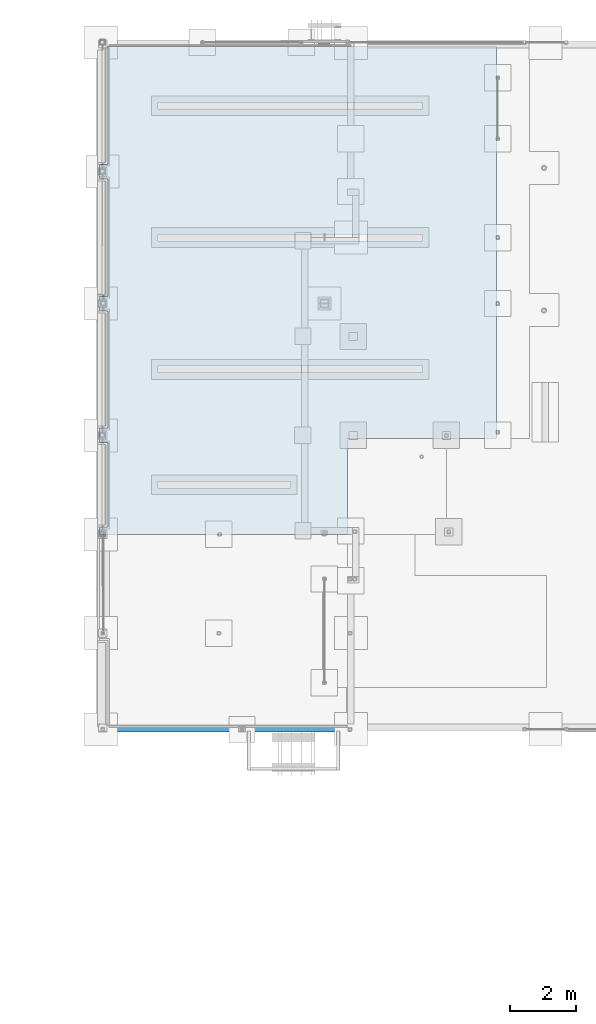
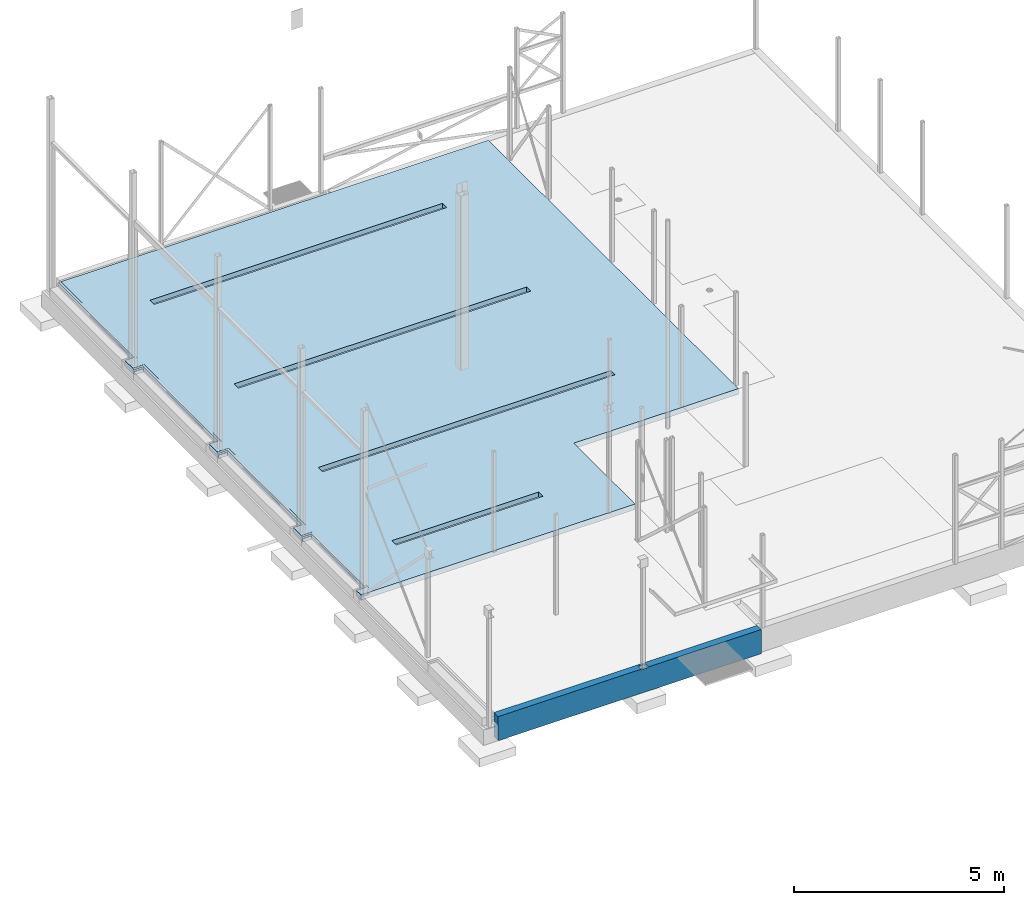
# One storey, part 12 of 18: 1 slab, 1 wall.
"""IFC2X3 building model written with IfcOpenShell, lengths in millimetres."""

import ifcopenshell
import ifcopenshell.guid

model = None  # the IFC model being written
_history = None  # IfcOwnerHistory: only IFC2X3 demands one
_inside = {}  # id of a spatial element -> (the spatial element, [elements in it])
_under = {}  # id of a project, library or spatial element -> (it, [spatial elements below it])
_declared = {}  # id of a project -> (the project, [libraries it declares])
_typed = {}  # id of a type object -> (the type object, [elements of that type])
_made_of = {}  # id of a material, layer set ... -> (it, [elements and type objects made of it])


def new_model(schema):
    """Start an empty IFC model of exactly this schema.

    Asked for "IFC4X3", IfcOpenShell would pick the latest addendum, in which some entities
    have other attributes; the version numbers below select the first issue.
    IFC2X3 requires an IfcOwnerHistory on every rooted entity: one is made here for all.
    """
    global model, _history
    if schema == "IFC4X3":
        model = ifcopenshell.file(schema_version=(4, 3, 0, 0))
    else:
        model = ifcopenshell.file(schema=schema)
    _inside.clear()
    _under.clear()
    _declared.clear()
    _typed.clear()
    _made_of.clear()
    _history = None
    if model.schema == "IFC2X3":
        org = make("IfcOrganization", Name="unknown")
        user = make(
            "IfcPersonAndOrganization",
            ThePerson=make("IfcPerson", FamilyName="unknown"),
            TheOrganization=org,
        )
        app = make(
            "IfcApplication",
            ApplicationDeveloper=org,
            Version="unknown",
            ApplicationFullName="unknown",
            ApplicationIdentifier="unknown",
        )
        _history = make(
            "IfcOwnerHistory",
            OwningUser=user,
            OwningApplication=app,
            ChangeAction="ADDED",
            CreationDate=0,
        )
    return model


def make(cls, **values):
    """One entity of the class cls with the attributes given. An attribute that is None is left unset."""
    return model.create_entity(
        cls, **{name: value for name, value in values.items() if value is not None}
    )


def entity(cls, *values):
    """Any entity or typed value of the class cls, its attributes in the order of the schema. None: left unset."""
    e = model.create_entity(cls)
    for i, value in enumerate(values):
        if value is not None:
            e[i] = value
    return e


def rooted(cls, **values):
    """An entity with a GlobalId (a new one), such as an element, a storey or a relation."""
    return make(cls, GlobalId=ifcopenshell.guid.new(), OwnerHistory=_history, **values)


def si_unit(unit_type, name, prefix=None):
    """IfcSIUnit, for example si_unit("LENGTHUNIT", "METRE", prefix="MILLI")."""
    return make("IfcSIUnit", UnitType=unit_type, Prefix=prefix, Name=name)


def converted_unit(unit_type, name, factor, base, dimensions=None, offset=None):
    """IfcConversionBasedUnit, such as the inch: factor (a typed value) times the base unit."""
    return make(
        "IfcConversionBasedUnit"
        if offset is None
        else "IfcConversionBasedUnitWithOffset",
        ConversionOffset=offset,
        Dimensions=None
        if dimensions is None
        else entity("IfcDimensionalExponents", *dimensions),
        UnitType=unit_type,
        Name=name,
        ConversionFactor=make(
            "IfcMeasureWithUnit", ValueComponent=factor, UnitComponent=base
        ),
    )


def derived_unit(unit_type, elements):
    """IfcDerivedUnit: a product of units, each with its exponent."""
    return make(
        "IfcDerivedUnit",
        Elements=[
            make("IfcDerivedUnitElement", Unit=unit, Exponent=power)
            for unit, power in elements
        ],
        UnitType=unit_type,
    )


def assignment(units):
    """IfcUnitAssignment: the units of a project."""
    return None if units is None else make("IfcUnitAssignment", Units=units)


def point(xyz):
    """IfcCartesianPoint."""
    return None if xyz is None else make("IfcCartesianPoint", Coordinates=xyz)


def direction(xyz):
    """IfcDirection."""
    return None if xyz is None else make("IfcDirection", DirectionRatios=xyz)


def frame(location, z_axis=None, x_axis=None):
    """IfcAxis2Placement3D, a coordinate frame: its origin and axes. An axis left out is left unset."""
    return make(
        "IfcAxis2Placement3D",
        Location=point(location),
        Axis=direction(z_axis),
        RefDirection=direction(x_axis),
    )


def origin():
    """The frame at (0, 0, 0) with its axes left unset."""
    return frame((0.0, 0.0, 0.0))


def place(relative_to, where):
    """IfcLocalPlacement: puts the frame where relative to a parent placement (None: the world)."""
    return make(
        "IfcLocalPlacement", PlacementRelTo=relative_to, RelativePlacement=where
    )


def context(
    kind, dimensions, precision=None, world=None, true_north=None, identifier=None
):
    """IfcGeometricRepresentationContext, for example the 3D "Model" context."""
    return make(
        "IfcGeometricRepresentationContext",
        ContextIdentifier=identifier,
        ContextType=kind,
        CoordinateSpaceDimension=dimensions,
        Precision=precision,
        WorldCoordinateSystem=world,
        TrueNorth=true_north,
    )


def subcontext(parent, identifier, kind, view, scale=None):
    """IfcGeometricRepresentationSubContext, for example "Body" below "Model"."""
    return make(
        "IfcGeometricRepresentationSubContext",
        ContextIdentifier=identifier,
        ContextType=kind,
        ParentContext=parent,
        TargetScale=scale,
        TargetView=view,
    )


def project(units=None, contexts=None):
    """IfcProject with its units and contexts."""
    return rooted(
        "IfcProject",
        Name="project",
        RepresentationContexts=contexts,
        UnitsInContext=assignment(units),
    )


def spatial(cls, under=None, at=None, **own):
    """A site, building, storey or space (cls), placed at a placement, below another one or the project."""
    s = rooted(cls, ObjectPlacement=at, **own)
    if under is not None:
        _under.setdefault(under.id(), (under, []))[1].append(s)
    return s


def faces_of(points, faces, orient=None, outer=None):
    """IfcFace entities. A face is a list of loops; a loop is a list of indices into points, from 0.

    orient and outer hold one flag for each loop. By default every Orientation is true, the
    first loop of a face is its IfcFaceOuterBound and the others are IfcFaceBound.
    """
    made = []
    for i, loops in enumerate(faces):
        bounds = []
        for j, loop in enumerate(loops):
            is_outer = j == 0 if outer is None else outer[i][j]
            bounds.append(
                make(
                    "IfcFaceOuterBound" if is_outer else "IfcFaceBound",
                    Bound=make("IfcPolyLoop", Polygon=[points[k] for k in loop]),
                    Orientation=True if orient is None else orient[i][j],
                )
            )
        made.append(make("IfcFace", Bounds=bounds))
    return made


def faceted_brep(points, faces, orient=None, outer=None, voids=None):
    """IfcFacetedBrep: a solid bounded by flat faces; with voids (closed shells), ...WithVoids."""
    shared = [point(p) for p in points]
    hull = make("IfcClosedShell", CfsFaces=faces_of(shared, faces, orient, outer))
    if voids is None:
        return make("IfcFacetedBrep", Outer=hull)
    return make(
        "IfcFacetedBrepWithVoids",
        Outer=hull,
        Voids=[
            make(cls, CfsFaces=faces_of(shared, fs, o, b)) for cls, fs, o, b in voids
        ],
    )


def shape(context_of_items, identifier, shape_type, items):
    """IfcShapeRepresentation: the items that make up one representation, for example the "Body"."""
    return make(
        "IfcShapeRepresentation",
        ContextOfItems=context_of_items,
        RepresentationIdentifier=identifier,
        RepresentationType=shape_type,
        Items=items,
    )


def material(Name=None, Category=None):
    """IfcMaterial."""
    return make("IfcMaterial", Name=Name, Category=Category)


def layer(
    of_material, thickness, ventilated=None, Name=None, Category=None, Priority=None
):
    """IfcMaterialLayer: one layer of a wall or slab, of a material (None: an air gap)."""
    return make(
        "IfcMaterialLayer",
        Material=of_material,
        LayerThickness=thickness,
        IsVentilated=ventilated,
        Name=Name,
        Category=Category,
        Priority=Priority,
    )


def layer_set(layers, Name=None):
    """IfcMaterialLayerSet."""
    return make("IfcMaterialLayerSet", MaterialLayers=layers, LayerSetName=Name)


def made_of(thing, what):
    """Note that an element or type object is made of a material, layer set ...; save() writes the relation."""
    if what is not None:
        _made_of.setdefault(what.id(), (what, []))[1].append(thing)
    return thing


def type_object(cls, material=None, **own):
    """A type object (cls), such as IfcWallType, which elements share."""
    return made_of(rooted(cls, **own), material)


def element(
    cls,
    number,
    at=None,
    inside=None,
    cuts=None,
    type_object=None,
    material=None,
    context=None,
    identifier="Body",
    shape_type=None,
    held_by="IfcProductDefinitionShape",
    body=None,
    shapes=None,
    **own,
):
    """One element of the class cls, such as IfcWall. Its Tag is "e" and its number.

    at: its placement. inside: the storey or other place that contains it. cuts: it is an
    opening in that element (IfcRelVoidsElement). A single representation is given by context,
    identifier, shape_type and body (its items); several are given by shapes. held_by: the class
    of the entity that holds the representations. save() writes the other relations.
    """
    e = rooted(cls, Tag="e%d" % number, ObjectPlacement=at, **own)
    if body is not None:
        shapes = [shape(context, identifier, shape_type, body)]
    if shapes is not None:
        e.Representation = make(held_by, Representations=shapes)
    if inside is not None:
        _inside.setdefault(inside.id(), (inside, []))[1].append(e)
    if cuts is not None:
        rooted(
            "IfcRelVoidsElement", RelatingBuildingElement=cuts, RelatedOpeningElement=e
        )
    if type_object is not None:
        _typed.setdefault(type_object.id(), (type_object, []))[1].append(e)
    return made_of(e, material)


def aggregate(whole, parts):
    """IfcRelAggregates: a whole, such as a stair, and the parts it consists of."""
    return rooted("IfcRelAggregates", RelatingObject=whole, RelatedObjects=parts)


def save(model, path):
    """Write the relations noted so far, then the file.

    IfcRelAggregates (storeys below a building ...), IfcRelContainedInSpatialStructure (elements
    in a storey), IfcRelDefinesByType, IfcRelAssociatesMaterial and IfcRelDeclares: one each for
    every whole, place, type object, material and project.
    """
    for whole, parts in _under.values():
        aggregate(whole, parts)
    for where, things in _inside.values():
        rooted(
            "IfcRelContainedInSpatialStructure",
            RelatedElements=things,
            RelatingStructure=where,
        )
    for kind, things in _typed.values():
        rooted("IfcRelDefinesByType", RelatedObjects=things, RelatingType=kind)
    for what, things in _made_of.values():
        rooted("IfcRelAssociatesMaterial", RelatedObjects=things, RelatingMaterial=what)
    for by, libraries in _declared.values():
        rooted("IfcRelDeclares", RelatingContext=by, RelatedDefinitions=libraries)
    model.write(path)


model = new_model("IFC2X3")

# Units and contexts
model_context = context("Model", 3, precision=0.01, world=origin(), true_north=direction((6.12303176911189e-17, 1.0)))
body_context = subcontext(model_context, "Body", "Model", "MODEL_VIEW")
ifc_project = project(units=[si_unit("LENGTHUNIT", "METRE", prefix="MILLI"), si_unit("AREAUNIT", "SQUARE_METRE"), si_unit("VOLUMEUNIT", "CUBIC_METRE"), converted_unit("PLANEANGLEUNIT", "DEGREE", entity("IfcRatioMeasure", 0.0174532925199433), si_unit("PLANEANGLEUNIT", "RADIAN"), dimensions=[0, 0, 0, 0, 0, 0, 0]), si_unit("MASSUNIT", "GRAM", prefix="KILO"), derived_unit("MASSDENSITYUNIT", [(si_unit("MASSUNIT", "GRAM", prefix="KILO"), 1), (si_unit("LENGTHUNIT", "METRE"), -3)]), si_unit("TIMEUNIT", "SECOND"), si_unit("FREQUENCYUNIT", "HERTZ"), si_unit("THERMODYNAMICTEMPERATUREUNIT", "DEGREE_CELSIUS"), derived_unit("THERMALTRANSMITTANCEUNIT", [(si_unit("MASSUNIT", "GRAM", prefix="KILO"), 1), (si_unit("THERMODYNAMICTEMPERATUREUNIT", "KELVIN"), -1), (si_unit("TIMEUNIT", "SECOND"), -3)]), derived_unit("VOLUMETRICFLOWRATEUNIT", [(si_unit("LENGTHUNIT", "METRE"), 3), (si_unit("TIMEUNIT", "SECOND"), -1)]), si_unit("ELECTRICCURRENTUNIT", "AMPERE"), si_unit("ELECTRICVOLTAGEUNIT", "VOLT"), si_unit("POWERUNIT", "WATT"), si_unit("FORCEUNIT", "NEWTON", prefix="KILO"), si_unit("ILLUMINANCEUNIT", "LUX"), si_unit("LUMINOUSFLUXUNIT", "LUMEN"), si_unit("LUMINOUSINTENSITYUNIT", "CANDELA"), derived_unit("USERDEFINED", [(si_unit("MASSUNIT", "GRAM", prefix="KILO"), -1), (si_unit("LENGTHUNIT", "METRE"), -2), (si_unit("TIMEUNIT", "SECOND"), 3), (si_unit("LUMINOUSFLUXUNIT", "LUMEN"), 1)]), derived_unit("LINEARVELOCITYUNIT", [(si_unit("LENGTHUNIT", "METRE"), 1), (si_unit("TIMEUNIT", "SECOND"), -1)]), si_unit("PRESSUREUNIT", "PASCAL"), derived_unit("USERDEFINED", [(si_unit("LENGTHUNIT", "METRE"), -2), (si_unit("MASSUNIT", "GRAM", prefix="KILO"), 1), (si_unit("TIMEUNIT", "SECOND"), -2)])], contexts=[model_context])

# Site, building, storey
site_placement = place(None, frame((0.0, 0.0, 101000.0)))
site = spatial("IfcSite", under=ifc_project, at=site_placement, Name="Default", CompositionType="ELEMENT")
building_placement = place(site_placement, origin())
building = spatial("IfcBuilding", under=site, at=building_placement, CompositionType="ELEMENT")
storey_placement = place(building_placement, origin())
storey = spatial("IfcBuildingStorey", under=building, at=storey_placement, Name="01", CompositionType="ELEMENT", Elevation=8.9295595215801e-10)

# Slab
ifc_material_1 = material(Name="Betong Plasstøpt - B30")
slab_placement = place(storey_placement, origin())
element("IfcSlab", 1, at=slab_placement, inside=storey, material=ifc_material_1, Name="Floor:PÅSTØP 160 VARIABEL", ObjectType="Floor:PÅSTØP 160 VARIABEL", PredefinedType="FLOOR", context=body_context, shape_type="Brep", body=[
    faceted_brep([(13461.3188765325, 42517.9507529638, -160.0), (5436.31887653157, 42517.9507529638, -160.0), (5436.31887653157, 42317.9507529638, -160.0), (13461.3188765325, 42317.9507529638, -160.0), (5436.31887653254, 38517.9507529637, -160.0), (5436.31887653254, 38317.9507529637, -160.0), (13461.3188765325, 38317.9507529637, -160.0), (13461.3188765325, 38517.9507529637, -160.0), (13461.3188765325, 34517.9507529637, -160.0), (5436.31887653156, 34517.9507529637, -160.0), (5436.31887653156, 34317.9507529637, -160.0), (13461.3188765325, 34317.9507529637, -160.0), (9461.31887653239, 31017.9507529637, -160.0), (5436.31887653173, 31017.9507529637, -160.0), (5436.31887653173, 30817.9507529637, -160.0), (9461.31887653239, 30817.9507529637, -160.0), (3911.26449698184, 44217.9507529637, -160.0), (15701.3188765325, 44217.9507529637, -160.0), (15701.3188765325, 32329.1471426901, -160.0), (11186.2644969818, 32329.1471426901, -160.0), (11186.2644969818, 29417.9507529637, -160.0), (3660.98233689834, 29417.9507529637, -160.0), (3660.98233689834, 29642.9507529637, -160.0), (3911.26449698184, 29642.9507529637, -160.0), (3911.26449698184, 32192.9507529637, -160.0), (3660.98233689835, 32192.9507529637, -160.0), (3660.98233689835, 32642.9507529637, -160.0), (3911.26449698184, 32642.9507529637, -160.0), (3911.26449698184, 36192.9507529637, -160.0), (3660.98233689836, 36192.9507529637, -160.0), (3660.98233689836, 36642.9507529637, -160.0), (3911.26449698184, 36642.9507529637, -160.0), (3911.26449698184, 40192.9507529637, -160.0), (3660.98233689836, 40192.9507529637, -160.0), (3660.98233689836, 40642.9507529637, -160.0), (3911.26449698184, 40642.9507529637, -160.0), (3911.26449698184, 44217.9507529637, -60.0), (3916.26449698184, 44217.9507529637, -60.0), (3916.26449698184, 44217.9507529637, -5.0), (3971.26449698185, 44217.9507529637, -5.0), (3971.26449698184, 44217.9507529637, 0.0), (15701.3188765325, 44217.9507529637, 0.0), (3911.26449698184, 40642.9507529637, -60.0), (3660.98233689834, 29642.9507529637, -60.0), (3911.26449698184, 29642.9507529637, -60.0), (3911.26449698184, 32192.9507529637, -60.0), (3660.98233689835, 32192.9507529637, -60.0), (3660.98233689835, 32197.9507529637, -60.0), (3660.98233689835, 32197.9507529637, -5.0), (3660.98233689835, 32252.9507529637, -5.0), (3660.98233689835, 32252.9507529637, 0.0), (3660.98233689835, 32582.9507529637, 0.0), (3660.98233689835, 32582.9507529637, -5.0), (3660.98233689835, 32637.9507529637, -5.0), (3660.98233689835, 32637.9507529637, -60.0), (3660.98233689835, 32642.9507529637, -60.0), (3911.26449698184, 32642.9507529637, -60.0), (3911.26449698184, 36192.9507529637, -60.0), (3660.98233689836, 36192.9507529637, -60.0), (3660.98233689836, 36197.9507529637, -60.0), (3660.98233689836, 36197.9507529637, -5.0), (3660.98233689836, 36252.9507529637, -5.0), (3660.98233689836, 36252.9507529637, 0.0), (3660.98233689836, 36582.9507529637, 0.0), (3660.98233689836, 36582.9507529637, -5.0), (3660.98233689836, 36637.9507529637, -5.0), (3660.98233689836, 36637.9507529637, -60.0), (3660.98233689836, 36642.9507529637, -60.0), (3911.26449698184, 36642.9507529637, -60.0), (3911.26449698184, 40192.9507529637, -60.0), (3660.98233689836, 40192.9507529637, -60.0), (3660.98233689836, 40197.9507529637, -60.0), (3660.98233689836, 40197.9507529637, -5.0), (3660.98233689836, 40252.9507529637, -5.0), (3660.98233689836, 40252.9507529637, 0.0), (3660.98233689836, 40582.9507529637, 0.0), (3660.98233689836, 40582.9507529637, -5.0), (3660.98233689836, 40637.9507529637, -5.0), (3660.98233689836, 40637.9507529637, -60.0), (3660.98233689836, 40642.9507529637, -60.0), (15701.3188765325, 32329.1471426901, 0.0), (11186.2644969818, 32329.1471426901, 0.0), (11186.2644969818, 29417.9507529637, 0.0), (3660.98233689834, 29417.9507529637, 0.0), (3660.98233689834, 29417.9507529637, -15.0), (3660.98233689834, 29582.9507529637, 0.0), (3660.98233689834, 29582.9507529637, -5.0), (3660.98233689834, 29637.9507529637, -5.0), (3660.98233689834, 29637.9507529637, -60.0), (3911.26449698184, 40252.9507529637, 0.0), (3911.26449698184, 40582.9507529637, 0.0), (13461.3188765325, 42517.9507529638, -20.0), (5436.31887653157, 42517.9507529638, -20.0), (5436.31887653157, 42317.9507529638, -20.0), (13461.3188765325, 42317.9507529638, -20.0), (5436.31887653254, 38517.9507529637, -20.0), (5436.31887653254, 38317.9507529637, -20.0), (13461.3188765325, 38317.9507529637, -20.0), (13461.3188765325, 38517.9507529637, -20.0), (13461.3188765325, 34517.9507529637, -20.0), (5436.31887653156, 34517.9507529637, -20.0), (5436.31887653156, 34317.9507529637, -20.0), (13461.3188765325, 34317.9507529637, -20.0), (9461.31887653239, 31017.9507529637, -20.0), (5436.31887653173, 31017.9507529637, -20.0), (5436.31887653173, 30817.9507529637, -20.0), (9461.31887653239, 30817.9507529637, -20.0), (3911.26449698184, 36582.9507529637, 0.0), (3911.26449698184, 36252.9507529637, 0.0), (3971.26449698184, 44151.0678920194, -0.786857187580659), (3971.26449698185, 40582.9507529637, -0.786857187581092), (3971.26449698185, 40252.9507529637, -0.786857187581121), (3971.26449698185, 36582.9507529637, -0.786857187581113), (3971.26449698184, 36252.9507529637, -0.786857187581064), (3971.26449698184, 32582.9507529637, -0.78685718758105), (3911.26449698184, 32582.9507529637, 0.0), (3911.26449698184, 32252.9507529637, 0.0), (3971.26449698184, 32252.9507529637, -0.786857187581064), (3971.26449698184, 29689.1786127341, -0.78685718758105), (3971.26449698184, 29655.6533312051, -0.216214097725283), (3971.26449698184, 29641.0950828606, 0.0), (3971.26449698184, 29582.9507529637, 0.0), (3971.26449698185, 40582.9507529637, -5.0), (3916.26449698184, 40197.9507529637, -60.0), (3916.26449698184, 36637.9507529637, -60.0), (3916.26449698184, 36637.9507529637, -5.0), (3916.26449698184, 40197.9507529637, -5.0), (3971.26449698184, 36582.9507529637, -5.0), (3971.26449698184, 40252.9507529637, -5.0), (3916.26449698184, 40637.9507529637, -60.0), (3916.26449698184, 40637.9507529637, -5.0), (3916.26449698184, 36197.9507529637, -60.0), (3916.26449698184, 36197.9507529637, -5.0), (3971.26449698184, 36252.9507529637, -5.0), (3971.26449698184, 32582.9507529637, -5.0), (3916.26449698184, 32637.9507529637, -5.0), (3916.26449698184, 32637.9507529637, -60.0), (3916.26449698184, 32197.9507529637, -60.0), (3916.26449698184, 29637.9507529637, -60.0), (3916.26449698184, 29637.9507529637, -5.0), (3916.26449698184, 32197.9507529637, -5.0), (3971.26449698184, 29582.9507529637, -5.0), (3971.26449698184, 32252.9507529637, -5.0)], [[[0, 1, 2, 3], [4, 5, 6, 7], [8, 9, 10, 11], [12, 13, 14, 15], [16, 17, 18, 19, 20, 21, 22, 23, 24, 25, 26, 27, 28, 29, 30, 31, 32, 33, 34, 35]], [[17, 16, 36, 37, 38, 39, 40, 41]], [[16, 35, 42, 36]], [[23, 22, 43, 44]], [[24, 23, 44, 45]], [[25, 24, 45, 46]], [[26, 25, 46, 47, 48, 49, 50, 51, 52, 53, 54, 55]], [[27, 26, 55, 56]], [[28, 27, 56, 57]], [[29, 28, 57, 58]], [[30, 29, 58, 59, 60, 61, 62, 63, 64, 65, 66, 67]], [[31, 30, 67, 68]], [[32, 31, 68, 69]], [[33, 32, 69, 70]], [[34, 33, 70, 71, 72, 73, 74, 75, 76, 77, 78, 79]], [[35, 34, 79, 42]], [[18, 17, 41, 80]], [[19, 18, 80, 81]], [[20, 19, 81, 82]], [[21, 20, 82, 83, 84]], [[22, 21, 84, 83, 85, 86, 87, 88, 43]], [[74, 89, 90, 75]], [[1, 0, 91, 92]], [[2, 1, 92, 93]], [[3, 2, 93, 94]], [[0, 3, 94, 91]], [[5, 4, 95, 96]], [[6, 5, 96, 97]], [[7, 6, 97, 98]], [[4, 7, 98, 95]], [[9, 8, 99, 100]], [[10, 9, 100, 101]], [[11, 10, 101, 102]], [[8, 11, 102, 99]], [[13, 12, 103, 104]], [[14, 13, 104, 105]], [[15, 14, 105, 106]], [[12, 15, 106, 103]], [[94, 93, 95, 98]], [[97, 96, 100, 99]], [[107, 63, 62, 108]], [[80, 41, 91, 94, 98, 97, 99, 102]], [[92, 91, 41, 40, 109]], [[105, 104, 101, 100, 96, 95, 93, 92, 109, 110, 90, 89, 111, 112, 107, 108, 113, 114, 115, 116, 117, 118]], [[104, 103, 101]], [[115, 51, 50, 116]], [[101, 103, 81]], [[81, 80, 102, 101]], [[106, 105, 118, 119]], [[83, 82, 120, 121, 85]], [[82, 81, 103, 106]], [[82, 106, 119, 120]], [[39, 122, 110, 109, 40]], [[122, 76, 75, 90, 110]], [[123, 69, 68, 124]], [[123, 124, 125, 126]], [[126, 125, 127, 128]], [[128, 127, 112, 111]], [[127, 64, 63, 107, 112]], [[127, 125, 65, 64]], [[125, 124, 66, 65]], [[124, 68, 67, 66]], [[73, 128, 111, 89, 74]], [[126, 128, 73, 72]], [[123, 126, 72, 71]], [[69, 123, 71, 70]], [[129, 37, 36, 42]], [[37, 129, 130, 38]], [[38, 130, 122, 39]], [[122, 130, 77, 76]], [[130, 129, 78, 77]], [[129, 42, 79, 78]], [[131, 59, 58, 57]], [[59, 131, 132, 60]], [[60, 132, 133, 61]], [[61, 133, 113, 108, 62]], [[133, 134, 114, 113]], [[133, 132, 135, 134]], [[132, 131, 136, 135]], [[131, 57, 56, 136]], [[134, 52, 51, 115, 114]], [[134, 135, 53, 52]], [[135, 136, 54, 53]], [[136, 56, 55, 54]], [[137, 45, 44, 138]], [[137, 138, 139, 140]], [[140, 139, 141, 142]], [[142, 141, 121, 120, 119, 118, 117]], [[121, 141, 86, 85]], [[141, 139, 87, 86]], [[139, 138, 88, 87]], [[138, 44, 43, 88]], [[49, 142, 117, 116, 50]], [[140, 142, 49, 48]], [[137, 140, 48, 47]], [[45, 137, 47, 46]]], outer=[[False, False, False, False, True], [True], [True], [True], [True], [True], [True], [True], [True], [True], [True], [True], [True], [True], [True], [True], [True], [True], [True], [True], [True], [True], [True], [True], [True], [True], [True], [True], [True], [True], [True], [True], [True], [True], [True], [True], [True], [True], [True], [True], [True], [True], [True], [True], [True], [True], [True], [True], [True], [True], [True], [True], [True], [True], [True], [True], [True], [True], [True], [True], [True], [True], [True], [True], [True], [True], [True], [True], [True], [True], [True], [True], [True], [True], [True], [True], [True], [True], [True], [True], [True], [True], [True], [True], [True], [True], [True], [True], [True], [True], [True], [True], [True], [True], [True], [True]]),
])

# Wall
ifc_material_2 = material(Name="Betong Plasstøpt - B35")
ifc_layer = layer(ifc_material_2, 200.0)
ifc_layer_set = layer_set([ifc_layer], Name="Basic Wall:OPPKANT B=200")
wall_type = type_object("IfcWallType", Name="Basic Wall:OPPKANT B=200", PredefinedType="STANDARD", material=ifc_layer_set)
wall_placement = place(storey_placement, frame((11186.2644969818, 23517.9507529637, -700.0), z_axis=(0.0, 0.0, 1.0), x_axis=(-1.0, 0.0, 0.0)))
element("IfcWall", 2, at=wall_placement, inside=storey, type_object=wall_type, Name="Basic Wall:OPPKANT B=200", ObjectType="Basic Wall:OPPKANT B=200", context=body_context, shape_type="Brep", body=[
    faceted_brep([(0.0, -100.0, 700.0), (0.0, -50.0, 700.0), (0.0, -50.0, 450.0), (0.0, -100.0, 450.0), (7225.0, -100.0, 700.0), (7225.0, -100.0, 450.0), (7225.0, -50.0, 450.0), (7225.0, -50.0, 700.0), (3300.0, -50.0, 700.0), (3100.0, -50.0, 700.0)], [[[0, 1, 2, 3]], [[4, 5, 6, 7]], [[1, 0, 4, 7, 8, 9]], [[2, 1, 9, 8, 7, 6]], [[3, 2, 6, 5]], [[0, 3, 5, 4]]]),
    faceted_brep([(0.0, -50.0, 700.0), (3100.0, -50.0, 700.0), (3100.0, 100.0, 700.0), (0.0, 100.0, 700.0), (3130.0, -28.0, 700.0), (3132.0705523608, -27.7274066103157, 700.0), (3134.0, -26.9282032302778, 700.0), (3135.65685424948, -25.6568542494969, 700.0), (3136.92820323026, -24.0, 700.0), (3137.7274066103, -22.0705523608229, 700.0), (3138.0, -20.0, 700.0), (3137.7274066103, -17.9294476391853, 700.0), (3136.92820323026, -16.0, 700.0), (3135.65685424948, -14.3431457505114, 700.0), (3134.0, -13.0717967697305, 700.0), (3132.0705523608, -12.2725933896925, 700.0), (3130.0, -12.0, 700.0), (3127.92944763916, -12.2725933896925, 700.0), (3126.0, -13.0717967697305, 700.0), (3124.34314575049, -14.3431457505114, 700.0), (3123.07179676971, -16.0, 700.0), (3122.27259338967, -17.9294476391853, 700.0), (3122.0, -20.0, 700.0), (3122.27259338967, -22.0705523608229, 700.0), (3123.07179676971, -24.0, 700.0), (3124.34314575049, -25.6568542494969, 700.0), (3126.0, -26.9282032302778, 700.0), (3127.92944763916, -27.7274066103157, 700.0), (3130.0, 62.0, 700.0), (3132.0705523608, 62.2725933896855, 700.0), (3134.0, 63.0717967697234, 700.0), (3135.65685424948, 64.3431457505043, 700.0), (3136.92820323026, 66.0, 700.0), (3137.7274066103, 67.9294476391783, 700.0), (3138.0, 70.0, 700.0), (3137.7274066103, 72.0705523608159, 700.0), (3136.92820323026, 74.0, 700.0), (3135.65685424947, 75.6568542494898, 700.0), (3134.0, 76.9282032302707, 700.0), (3132.0705523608, 77.7274066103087, 700.0), (3130.0, 78.0, 700.0), (3127.92944763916, 77.7274066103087, 700.0), (3126.0, 76.9282032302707, 700.0), (3124.34314575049, 75.6568542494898, 700.0), (3123.07179676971, 74.0, 700.0), (3122.27259338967, 72.0705523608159, 700.0), (3122.0, 70.0, 700.0), (3122.27259338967, 67.9294476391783, 700.0), (3123.07179676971, 66.0, 700.0), (3124.34314575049, 64.3431457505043, 700.0), (3126.0, 63.0717967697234, 700.0), (3127.92944763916, 62.2725933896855, 700.0), (3300.0, -50.0, 700.0), (7225.0, -50.0, 700.0), (7225.0, 100.0, 700.0), (3300.0, 100.0, 700.0), (3270.0, 62.0, 700.0), (3272.0705523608, 62.2725933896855, 700.0), (3274.0, 63.0717967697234, 700.0), (3275.65685424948, 64.3431457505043, 700.0), (3276.92820323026, 66.0, 700.0), (3277.7274066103, 67.9294476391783, 700.0), (3278.0, 70.0, 700.0), (3277.7274066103, 72.0705523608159, 700.0), (3276.92820323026, 74.0, 700.0), (3275.65685424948, 75.6568542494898, 700.0), (3274.0, 76.9282032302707, 700.0), (3272.0705523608, 77.7274066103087, 700.0), (3270.0, 78.0, 700.0), (3267.92944763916, 77.7274066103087, 700.0), (3266.0, 76.9282032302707, 700.0), (3264.34314575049, 75.6568542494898, 700.0), (3263.07179676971, 74.0, 700.0), (3262.27259338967, 72.0705523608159, 700.0), (3262.0, 70.0, 700.0), (3262.27259338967, 67.9294476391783, 700.0), (3263.07179676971, 66.0, 700.0), (3264.34314575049, 64.3431457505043, 700.0), (3266.0, 63.0717967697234, 700.0), (3267.92944763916, 62.2725933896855, 700.0), (3270.0, -28.0, 700.0), (3272.0705523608, -27.7274066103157, 700.0), (3274.0, -26.9282032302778, 700.0), (3275.65685424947, -25.6568542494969, 700.0), (3276.92820323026, -24.0, 700.0), (3277.7274066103, -22.0705523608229, 700.0), (3278.0, -20.0, 700.0), (3277.7274066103, -17.9294476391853, 700.0), (3276.92820323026, -16.0, 700.0), (3275.65685424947, -14.3431457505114, 700.0), (3274.0, -13.0717967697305, 700.0), (3272.0705523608, -12.2725933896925, 700.0), (3270.0, -12.0, 700.0), (3267.92944763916, -12.2725933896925, 700.0), (3266.0, -13.0717967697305, 700.0), (3264.34314575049, -14.3431457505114, 700.0), (3263.07179676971, -16.0, 700.0), (3262.27259338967, -17.9294476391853, 700.0), (3262.0, -20.0, 700.0), (3262.27259338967, -22.0705523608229, 700.0), (3263.07179676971, -24.0, 700.0), (3264.34314575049, -25.6568542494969, 700.0), (3266.0, -26.9282032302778, 700.0), (3267.92944763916, -27.7274066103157, 700.0), (0.0, -100.0, 450.0), (0.0, -100.0, 0.0), (7225.0, -100.0, 0.0), (7225.0, -100.0, 450.0), (7225.0, 100.0, 0.0), (0.0, 100.0, 0.0), (3100.0, 100.0, 685.0), (3300.0, 100.0, 685.0), (7225.0, -50.0, 450.0), (0.0, -50.0, 450.0), (3100.0, -50.0, 685.0), (3300.0, -50.0, 685.0), (3272.0705523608, 77.727406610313, 685.0), (3274.0, 76.9282032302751, 685.0), (3270.0, 78.0, 685.0), (3275.65685424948, 75.6568542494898, 685.0), (3276.92820323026, 74.0, 685.0), (3277.7274066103, 72.0705523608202, 685.0), (3278.0, 70.0, 685.0), (3277.7274066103, 67.9294476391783, 685.0), (3276.92820323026, 66.0, 685.0), (3276.92820323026, -16.0, 685.0), (3275.65685424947, -14.343145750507, 685.0), (3275.65685424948, 64.3431457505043, 685.0), (3274.0, -13.0717967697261, 685.0), (3274.0, 63.0717967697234, 685.0), (3272.0705523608, -12.2725933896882, 685.0), (3272.0705523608, 62.2725933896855, 685.0), (3270.0, -12.0, 685.0), (3270.0, 62.0, 685.0), (3267.92944763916, -12.2725933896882, 685.0), (3267.92944763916, 62.2725933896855, 685.0), (3266.0, -13.0717967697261, 685.0), (3266.0, 63.0717967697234, 685.0), (3264.34314575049, -14.343145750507, 685.0), (3264.34314575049, 64.3431457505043, 685.0), (3263.07179676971, 66.0, 685.0), (3263.07179676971, -16.0, 685.0), (3136.92820323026, -16.0, 685.0), (3136.92820323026, 66.0, 685.0), (3137.7274066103, 67.9294476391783, 685.0), (3262.27259338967, 67.9294476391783, 685.0), (3138.0, 70.0, 685.0), (3262.0, 70.0, 685.0), (3262.27259338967, 72.0705523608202, 685.0), (3137.7274066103, 72.0705523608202, 685.0), (3263.07179676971, 74.0, 685.0), (3136.92820323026, 74.0, 685.0), (3264.34314575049, 75.6568542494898, 685.0), (3135.65685424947, 75.6568542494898, 685.0), (3266.0, 76.9282032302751, 685.0), (3267.92944763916, 77.727406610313, 685.0), (3134.0, 76.9282032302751, 685.0), (3132.0705523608, 77.727406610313, 685.0), (3135.65685424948, -14.343145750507, 685.0), (3135.65685424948, 64.3431457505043, 685.0), (3134.0, 63.0717967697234, 685.0), (3134.0, -13.0717967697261, 685.0), (3132.0705523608, 62.2725933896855, 685.0), (3132.0705523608, -12.2725933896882, 685.0), (3130.0, 62.0, 685.0), (3130.0, -12.0, 685.0), (3127.92944763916, 62.2725933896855, 685.0), (3127.92944763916, -12.2725933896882, 685.0), (3126.0, 63.0717967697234, 685.0), (3126.0, -13.0717967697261, 685.0), (3124.34314575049, 64.3431457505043, 685.0), (3124.34314575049, -14.343145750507, 685.0), (3123.07179676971, 66.0, 685.0), (3122.27259338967, 67.9294476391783, 685.0), (3123.07179676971, -16.0, 685.0), (3122.0, 70.0, 685.0), (3122.27259338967, 72.0705523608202, 685.0), (3123.07179676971, 74.0, 685.0), (3124.34314575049, 75.6568542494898, 685.0), (3126.0, 76.9282032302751, 685.0), (3127.92944763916, 77.727406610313, 685.0), (3130.0, 78.0, 685.0), (3137.7274066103, -17.929447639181, 685.0), (3262.27259338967, -17.929447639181, 685.0), (3138.0, -20.0, 685.0), (3262.0, -20.0, 685.0), (3262.27259338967, -22.0705523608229, 685.0), (3137.7274066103, -22.0705523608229, 685.0), (3263.07179676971, -24.0, 685.0), (3136.92820323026, -24.0, 685.0), (3264.34314575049, -25.6568542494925, 685.0), (3135.65685424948, -25.6568542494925, 685.0), (3266.0, -26.9282032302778, 685.0), (3134.0, -26.9282032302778, 685.0), (3132.0705523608, -27.7274066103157, 685.0), (3130.0, -28.0, 685.0), (3127.92944763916, -27.7274066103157, 685.0), (3126.0, -26.9282032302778, 685.0), (3124.34314575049, -25.6568542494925, 685.0), (3123.07179676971, -24.0, 685.0), (3122.27259338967, -22.0705523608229, 685.0), (3122.0, -20.0, 685.0), (3122.27259338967, -17.929447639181, 685.0), (3277.7274066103, -17.929447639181, 685.0), (3278.0, -20.0, 685.0), (3277.7274066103, -22.0705523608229, 685.0), (3276.92820323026, -24.0, 685.0), (3275.65685424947, -25.6568542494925, 685.0), (3274.0, -26.9282032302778, 685.0), (3272.0705523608, -27.7274066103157, 685.0), (3270.0, -28.0, 685.0), (3267.92944763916, -27.7274066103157, 685.0)], [[[0, 1, 2, 3]], [[4, 5, 6, 7, 8, 9, 10, 11, 12, 13, 14, 15, 16, 17, 18, 19, 20, 21, 22, 23, 24, 25, 26, 27]], [[28, 29, 30, 31, 32, 33, 34, 35, 36, 37, 38, 39, 40, 41, 42, 43, 44, 45, 46, 47, 48, 49, 50, 51]], [[52, 53, 54, 55]], [[56, 57, 58, 59, 60, 61, 62, 63, 64, 65, 66, 67, 68, 69, 70, 71, 72, 73, 74, 75, 76, 77, 78, 79]], [[80, 81, 82, 83, 84, 85, 86, 87, 88, 89, 90, 91, 92, 93, 94, 95, 96, 97, 98, 99, 100, 101, 102, 103]], [[104, 105, 106, 107]], [[108, 109, 3, 2, 110, 111, 55, 54]], [[106, 105, 109, 108]], [[112, 107, 106, 108, 54, 53]], [[113, 0, 3, 109, 105, 104]], [[114, 1, 0, 113, 112, 53, 52, 115]], [[112, 113, 104, 107]], [[116, 117, 111]], [[118, 116, 111]], [[119, 111, 117]], [[111, 119, 120]], [[111, 120, 121]], [[121, 122, 111]], [[111, 122, 123]], [[111, 123, 124]], [[124, 125, 111]], [[124, 126, 125]], [[127, 126, 124]], [[126, 127, 128]], [[128, 127, 129]], [[129, 130, 128]], [[130, 129, 131]], [[131, 132, 130]], [[133, 132, 131]], [[132, 133, 134]], [[134, 133, 135]], [[136, 134, 135]], [[137, 136, 135]], [[138, 136, 137]], [[137, 139, 138]], [[140, 138, 139]], [[141, 138, 140]], [[141, 140, 142]], [[140, 143, 142]], [[140, 144, 143]], [[144, 140, 145]], [[145, 146, 144]], [[146, 145, 147]], [[146, 147, 148]], [[146, 148, 149]], [[149, 148, 150]], [[150, 151, 149]], [[151, 150, 152]], [[152, 153, 151]], [[153, 152, 154]], [[111, 154, 155]], [[156, 154, 111]], [[153, 154, 156]], [[111, 110, 156]], [[110, 157, 156]], [[111, 155, 118]], [[158, 142, 143]], [[158, 143, 159]], [[159, 160, 158]], [[158, 160, 161]], [[160, 162, 161]], [[161, 162, 163]], [[163, 162, 164]], [[163, 164, 165]], [[165, 164, 166]], [[166, 167, 165]], [[168, 167, 166]], [[168, 169, 167]], [[169, 168, 170]], [[170, 171, 169]], [[171, 170, 172]], [[110, 172, 173]], [[174, 172, 110]], [[172, 174, 171]], [[110, 173, 175]], [[175, 176, 110]], [[110, 176, 177]], [[110, 177, 178]], [[178, 179, 110]], [[179, 180, 110]], [[181, 110, 180]], [[110, 181, 157]], [[141, 142, 182]], [[182, 183, 141]], [[183, 182, 184]], [[184, 185, 183]], [[184, 186, 185]], [[187, 186, 184]], [[187, 188, 186]], [[188, 187, 189]], [[189, 190, 188]], [[190, 189, 191]], [[191, 192, 190]], [[193, 192, 191]], [[192, 193, 115]], [[114, 115, 193]], [[114, 193, 194]], [[114, 194, 195]], [[114, 195, 196]], [[114, 196, 197]], [[197, 198, 114]], [[199, 114, 198]], [[114, 199, 200]], [[114, 200, 201]], [[202, 114, 201]], [[114, 202, 174]], [[110, 114, 174]], [[115, 125, 203]], [[115, 203, 204]], [[115, 204, 205]], [[115, 205, 206]], [[206, 207, 115]], [[208, 115, 207]], [[209, 115, 208]], [[115, 209, 210]], [[115, 211, 192]], [[211, 115, 210]], [[115, 111, 125]], [[115, 52, 55, 111]], [[110, 2, 1, 114]], [[155, 69, 68, 118]], [[154, 70, 69, 155]], [[72, 71, 152, 150]], [[154, 152, 71, 70]], [[73, 72, 150, 148]], [[74, 73, 148, 147]], [[145, 75, 74, 147]], [[140, 76, 75, 145]], [[78, 77, 139, 137]], [[140, 139, 77, 76]], [[79, 78, 137, 135]], [[56, 79, 135, 133]], [[131, 57, 56, 133]], [[129, 58, 57, 131]], [[60, 59, 127, 124]], [[129, 127, 59, 58]], [[61, 60, 124, 123]], [[62, 61, 123, 122]], [[121, 63, 62, 122]], [[120, 64, 63, 121]], [[66, 65, 119, 117]], [[120, 119, 65, 64]], [[67, 66, 117, 116]], [[68, 67, 116, 118]], [[167, 17, 16, 165]], [[169, 18, 17, 167]], [[19, 171, 174, 20]], [[169, 171, 19, 18]], [[20, 174, 202, 21]], [[21, 202, 201, 22]], [[199, 24, 23, 200]], [[198, 25, 24, 199]], [[26, 197, 196, 27]], [[198, 197, 26, 25]], [[27, 196, 195, 4]], [[23, 22, 201, 200]], [[194, 5, 4, 195]], [[193, 6, 5, 194]], [[7, 191, 189, 8]], [[193, 191, 7, 6]], [[8, 189, 187, 9]], [[9, 187, 184, 10]], [[142, 12, 11, 182]], [[158, 13, 12, 142]], [[14, 161, 163, 15]], [[158, 161, 14, 13]], [[15, 163, 165, 16]], [[11, 10, 184, 182]], [[180, 41, 40, 181]], [[179, 42, 41, 180]], [[43, 178, 177, 44]], [[179, 178, 43, 42]], [[44, 177, 176, 45]], [[45, 176, 175, 46]], [[172, 48, 47, 173]], [[170, 49, 48, 172]], [[50, 168, 166, 51]], [[170, 168, 50, 49]], [[51, 166, 164, 28]], [[47, 46, 175, 173]], [[162, 29, 28, 164]], [[160, 30, 29, 162]], [[31, 159, 143, 32]], [[160, 159, 31, 30]], [[32, 143, 144, 33]], [[33, 144, 146, 34]], [[151, 36, 35, 149]], [[153, 37, 36, 151]], [[38, 156, 157, 39]], [[153, 156, 38, 37]], [[39, 157, 181, 40]], [[35, 34, 146, 149]], [[134, 93, 92, 132]], [[136, 94, 93, 134]], [[95, 138, 141, 96]], [[136, 138, 95, 94]], [[96, 141, 183, 97]], [[97, 183, 185, 98]], [[188, 100, 99, 186]], [[190, 101, 100, 188]], [[102, 192, 211, 103]], [[190, 192, 102, 101]], [[103, 211, 210, 80]], [[99, 98, 185, 186]], [[209, 81, 80, 210]], [[208, 82, 81, 209]], [[83, 207, 206, 84]], [[208, 207, 83, 82]], [[84, 206, 205, 85]], [[85, 205, 204, 86]], [[125, 88, 87, 203]], [[126, 89, 88, 125]], [[90, 128, 130, 91]], [[126, 128, 90, 89]], [[91, 130, 132, 92]], [[87, 86, 204, 203]]]),
])

save(model, "model.ifc")
